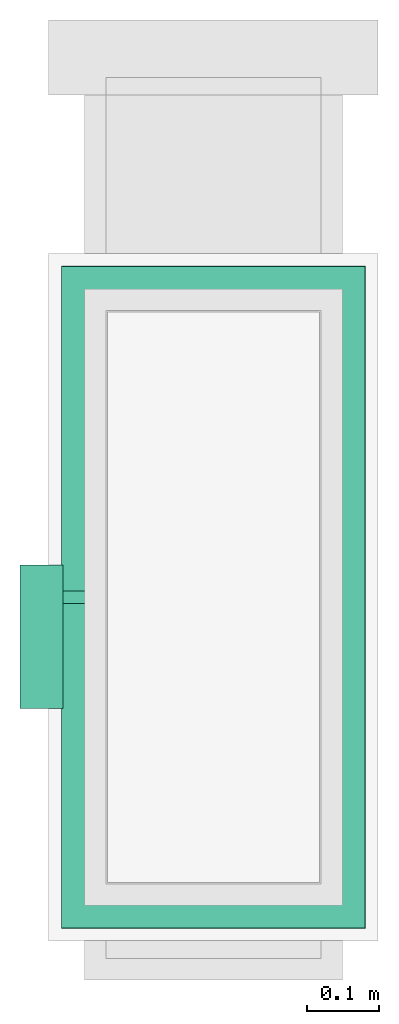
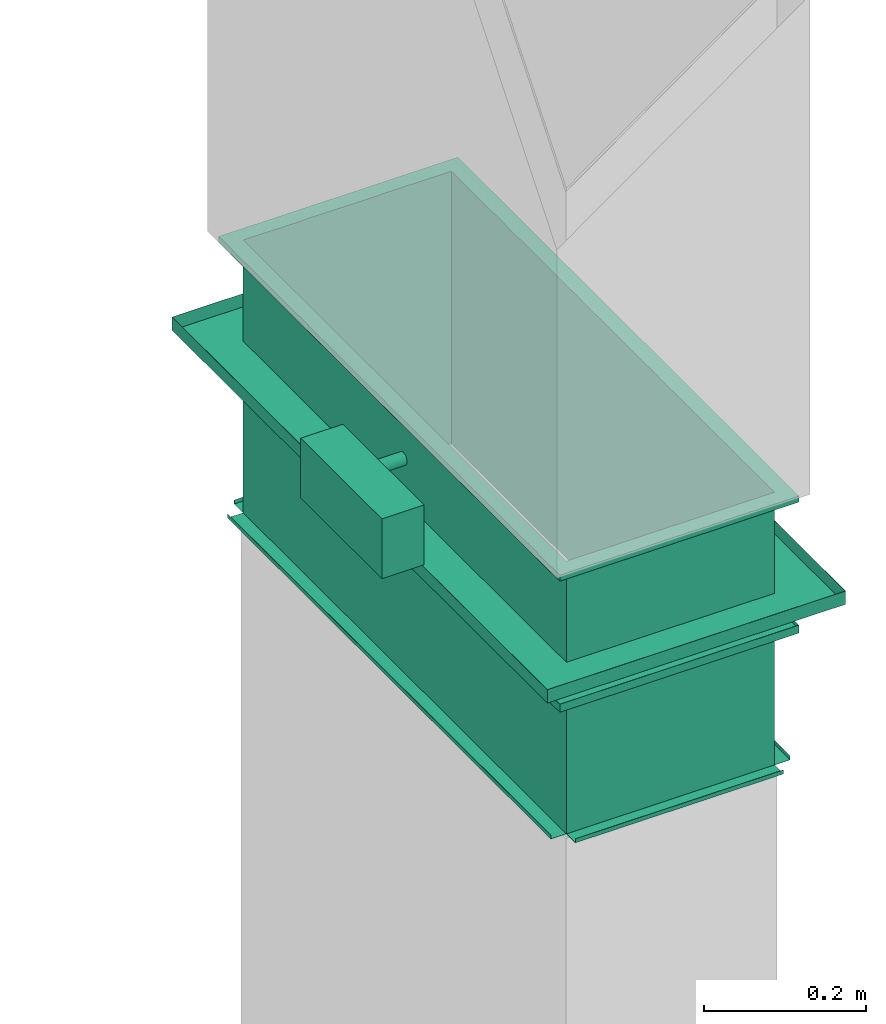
# One storey, part 3 of 4: 1 flow controller.
"""IFC2X3 building model written with IfcOpenShell, lengths in millimetres."""

from ifc_helpers import new_model, entity, si_unit, converted_unit, derived_unit, direction, frame, origin_with_axes, place, context, subcontext, project, spatial, open_shell, surface_model, source, transform, mapped, type_object, element, save


model = new_model("IFC2X3")

# Units and contexts
model_context = context("Model", 3, precision=0.01, world=frame((0.0, 4.29681676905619e-09, 0.0)), true_north=direction((4.01073788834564e-13, 1.0)))
plan_context = context("Plan", 3, precision=0.01, world=frame((0.0, 4.29681676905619e-09, 0.0)), true_north=direction((4.01073788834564e-13, 1.0)))
body_context = subcontext(model_context, "Body", "Model", "MODEL_VIEW")
ifc_project = project(units=[converted_unit("PLANEANGLEUNIT", "DEGREE", entity("IfcPositiveLengthMeasure", 0.0174532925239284), si_unit("PLANEANGLEUNIT", "RADIAN"), dimensions=[0, 0, 0, 0, 0, 0, 0]), si_unit("AREAUNIT", "SQUARE_METRE"), si_unit("LENGTHUNIT", "METRE", prefix="MILLI"), si_unit("MASSUNIT", "GRAM", prefix="KILO"), si_unit("POWERUNIT", "WATT"), si_unit("PRESSUREUNIT", "PASCAL"), si_unit("FORCEUNIT", "NEWTON", prefix="KILO"), si_unit("ELECTRICVOLTAGEUNIT", "VOLT"), si_unit("ELECTRICCURRENTUNIT", "AMPERE"), si_unit("THERMODYNAMICTEMPERATUREUNIT", "DEGREE_CELSIUS"), si_unit("TIMEUNIT", "SECOND"), si_unit("VOLUMEUNIT", "CUBIC_METRE"), derived_unit("LINEARVELOCITYUNIT", [(si_unit("LENGTHUNIT", "METRE"), 1), (si_unit("TIMEUNIT", "SECOND"), -1)]), derived_unit("VOLUMETRICFLOWRATEUNIT", [(si_unit("VOLUMEUNIT", "CUBIC_METRE"), 1), (si_unit("TIMEUNIT", "SECOND"), -1)]), derived_unit("THERMALTRANSMITTANCEUNIT", [(si_unit("POWERUNIT", "WATT"), 1), (si_unit("THERMODYNAMICTEMPERATUREUNIT", "KELVIN"), -1), (si_unit("AREAUNIT", "SQUARE_METRE"), -1)]), derived_unit("SOUNDPRESSUREUNIT", [(si_unit("PRESSUREUNIT", "PASCAL"), 1)])], contexts=[model_context, plan_context])

# Site, building, storey
site_placement = place(None, frame((0.0, -4.29681676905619e-09, 0.0), z_axis=(0.0, 0.0, 1.0), x_axis=(1.0, 0.0, 0.0)))
site = spatial("IfcSite", under=ifc_project, at=site_placement, CompositionType="ELEMENT")
building_placement = place(site_placement, frame((0.0, 4.29681676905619e-09, 0.0), z_axis=(0.0, 0.0, 1.0), x_axis=(1.0, 0.0, 0.0)))
building = spatial("IfcBuilding", under=site, at=building_placement, Name="mc-building", CompositionType="ELEMENT")
storey_placement = place(building_placement, frame((0.0, 0.0, 204000.0), z_axis=(0.0, 0.0, 1.0), x_axis=(1.0, 0.0, 0.0)))
storey = spatial("IfcBuildingStorey", under=building, at=storey_placement, Name="Nivå D", CompositionType="ELEMENT", Elevation=204000.0)

# Flow controller
damper_type = type_object("IfcDamperType", Name="FDT/R-300-800", PredefinedType="FIREDAMPER")
shared_shape = source(origin_with_axes(), body_context, "Body", "SurfaceModel", [
    surface_model("IfcShellBasedSurfaceModel", [(53.1, 212.0, 462.0), (53.1, 148.0, 398.00002), (53.1, 148.0, -398.00002), (53.1, 212.0, -462.0), (52.9, 212.0, -462.0), (52.9, 148.0, -398.00002), (52.9, 212.0, 462.0), (52.9, 148.0, 398.00002), (52.9, -212.0, 462.0), (52.9, -148.0, 398.00002), (52.9, -148.0, -398.00002), (52.9, -212.0, -462.0), (53.1, -212.0, -462.0), (53.1, -148.0, -398.00002), (53.1, -212.0, 462.0), (53.1, -148.0, 398.00002), (-199.0, -148.0, -420.10001), (-205.0, -148.0, -420.10001), (-205.0, 148.0, -420.10001), (-199.0, 148.0, -420.10001), (-199.0, 148.0, -419.89999), (-205.0, 148.0, -419.89999), (-205.0, -148.0, -419.89999), (-199.0, -148.0, -419.89999), (-205.0, -170.09999, -398.00002), (-199.0, -170.09999, -398.00002), (-199.0, -170.09999, 398.00002), (-205.0, -170.09999, 398.00002), (-205.0, -169.9, 398.00002), (-199.0, -169.9, 398.00002), (-199.0, -169.9, -398.00002), (-205.0, -169.9, -398.00002), (-205.0, 169.9, -398.00002), (-199.0, 169.9, -398.00002), (-199.0, 169.9, 398.00002), (-205.0, 169.9, 398.00002), (-205.0, 170.09999, 398.00002), (-199.0, 170.09999, 398.00002), (-199.0, 170.09999, -398.00002), (-205.0, 170.09999, -398.00002), (-199.0, -148.0, 419.89999), (-205.0, -148.0, 419.89999), (-205.0, 148.0, 419.89999), (-199.0, 148.0, 419.89999), (-199.0, 148.0, 420.10001), (-205.0, 148.0, 420.10001), (-205.0, -148.0, 420.10001), (-199.0, -148.0, 420.10001), (4.9, 170.0, -398.00002), (4.9, 148.0, -398.00002), (4.9, 170.0, 398.00002), (4.9, 148.0, 398.00002), (5.1, 170.0, 398.00002), (5.1, 148.0, 398.00002), (5.1, 148.0, -398.00002), (5.1, 170.0, -398.00002), (4.9, -148.0, -398.00002), (4.9, -170.0, -398.00002), (4.9, -148.0, 398.00002), (4.9, -170.0, 398.00002), (5.1, -148.0, 398.00002), (5.1, -170.0, 398.00002), (5.1, -170.0, -398.00002), (5.1, -148.0, -398.00002), (4.9, 170.0, -420.00002), (4.9, -170.0, -420.00002), (5.1, -170.0, -420.00002), (5.1, 170.0, -420.00002), (4.9, 170.0, 420.00002), (4.9, -170.0, 420.00002), (5.1, -170.0, 420.00002), (5.1, 170.0, 420.00002), (-1.0, 169.9, -420.00002), (5.0, 169.9, -420.00002), (5.0, 169.9, 420.00002), (-1.0, 169.9, 420.00002), (-1.0, 170.09999, 420.00002), (5.0, 170.09999, 420.00002), (5.0, 170.09999, -420.00002), (-1.0, 170.09999, -420.00002), (5.0, -170.0, -420.10001), (-1.0, -170.0, -420.10001), (-1.0, 170.0, -420.10001), (5.0, 170.0, -420.10001), (5.0, 170.0, -419.89999), (-1.0, 170.0, -419.89999), (-1.0, -170.0, -419.89999), (5.0, -170.0, -419.89999), (-1.0, -170.09999, -420.00002), (5.0, -170.09999, -420.00002), (5.0, -170.09999, 420.00002), (-1.0, -170.09999, 420.00002), (-1.0, -169.9, 420.00002), (5.0, -169.9, 420.00002), (5.0, -169.9, -420.00002), (-1.0, -169.9, -420.00002), (5.0, -170.0, 419.89999), (-1.0, -170.0, 419.89999), (-1.0, 170.0, 419.89999), (5.0, 170.0, 419.89999), (5.0, 170.0, 420.10001), (-1.0, 170.0, 420.10001), (-1.0, -170.0, 420.10001), (5.0, -170.0, 420.10001), (5.0, -148.0, -398.10001), (-205.0, -148.0, -398.10001), (-205.0, 148.0, -398.10001), (5.0, 148.0, -398.10001), (5.0, 148.0, -397.89999), (-205.0, 148.0, -397.89999), (5.0, -148.0, -397.89999), (-205.0, -148.0, -397.89999), (5.0, -148.0, 397.89999), (-205.0, -148.0, 397.89999), (-205.0, 148.0, 397.89999), (5.0, 148.0, 397.89999), (5.0, 148.0, 398.10001), (-205.0, 148.0, 398.10001), (5.0, -148.0, 398.10001), (-205.0, -148.0, 398.10001), (-205.0, -148.1, -398.00002), (5.0, -148.1, -398.00002), (5.0, -148.1, 398.00002), (-205.0, -148.1, 398.00002), (-205.0, -147.9, 398.00002), (5.0, -147.9, 398.00002), (-205.0, -147.9, -398.00002), (5.0, -147.9, -398.00002), (-205.0, 147.9, -398.00002), (5.0, 147.9, -398.00002), (5.0, 147.9, 398.00002), (-205.0, 147.9, 398.00002), (-205.0, 148.1, 398.00002), (5.0, 148.1, 398.00002), (-205.0, 148.1, -398.00002), (5.0, 148.1, -398.00002), (-205.1, 148.0, 420.00002), (-205.1, 148.0, 398.00002), (-205.1, -148.0, 398.00002), (-205.1, -148.0, 420.00002), (-204.89999, -148.0, 420.00002), (-204.89999, -148.0, 398.00002), (-204.89999, 148.0, 420.00002), (-204.89999, 148.0, 398.00002), (-205.1, 170.0, -398.00002), (-205.1, 148.0, -398.00002), (-205.1, 170.0, 398.00002), (-204.89999, 170.0, 398.00002), (-204.89999, 148.0, -398.00002), (-204.89999, 170.0, -398.00002), (-205.1, 148.0, -420.00002), (-205.1, -148.0, -420.00002), (-205.1, -148.0, -398.00002), (-204.89999, -148.0, -398.00002), (-204.89999, -148.0, -420.00002), (-204.89999, 148.0, -420.00002), (-205.1, -170.0, -398.00002), (-205.1, -170.0, 398.00002), (-204.89999, -170.0, 398.00002), (-204.89999, -170.0, -398.00002), (73.0, -212.0, -462.09999), (53.0, -212.0, -462.09999), (53.0, 212.0, -462.09999), (73.0, 212.0, -462.09999), (73.0, 212.0, -461.9), (53.0, 212.0, -461.9), (73.0, -212.0, -461.9), (53.0, -212.0, -461.9), (53.0, -212.10001, -462.0), (73.0, -212.10001, -462.0), (53.0, -212.10001, 462.0), (73.0, -212.10001, 462.0), (53.0, -211.9, 462.0), (73.0, -211.9, 462.0), (53.0, -211.9, -462.0), (73.0, -211.9, -462.0), (53.0, 211.9, -462.0), (73.0, 211.9, -462.0), (53.0, 211.9, 462.0), (73.0, 211.9, 462.0), (53.0, 212.10001, 462.0), (73.0, 212.10001, 462.0), (53.0, 212.10001, -462.0), (73.0, 212.10001, -462.0), (73.0, -212.0, 461.9), (53.0, -212.0, 461.9), (53.0, 212.0, 461.9), (73.0, 212.0, 461.9), (73.0, 212.0, 462.09999), (53.0, 212.0, 462.09999), (73.0, -212.0, 462.09999), (53.0, -212.0, 462.09999), (205.0, 147.9, -398.00002), (205.0, 147.9, 398.00002), (205.0, 148.1, 398.00002), (205.0, 148.1, -398.00002), (205.0, -148.1, -398.00002), (205.0, -148.1, 398.00002), (205.0, -147.9, 398.00002), (205.0, -147.9, -398.00002), (205.0, -148.0, 397.89999), (205.0, 148.0, 397.89999), (205.0, 148.0, 398.10001), (205.0, -148.0, 398.10001), (205.0, -148.0, -398.10001), (205.0, 148.0, -398.10001), (205.0, 148.0, -397.89999), (205.0, -148.0, -397.89999), (205.0, -170.0, 419.89999), (195.99999, -170.0, 419.89999), (195.99999, 170.0, 419.89999), (205.0, 170.0, 419.89999), (205.0, 170.0, 420.10001), (195.99999, 170.0, 420.10001), (195.99999, -170.0, 420.10001), (205.0, -170.0, 420.10001), (195.99999, -170.09999, -420.00002), (205.0, -170.09999, -420.00002), (195.99999, -170.09999, 420.00002), (205.0, -170.09999, 420.00002), (195.99999, -169.9, 420.00002), (205.0, -169.9, 420.00002), (195.99999, -169.9, -420.00002), (205.0, -169.9, -420.00002), (205.0, -170.0, -420.10001), (195.99999, -170.0, -420.10001), (195.99999, 170.0, -420.10001), (205.0, 170.0, -420.10001), (205.0, 170.0, -419.89999), (195.99999, 170.0, -419.89999), (195.99999, -170.0, -419.89999), (205.0, -170.0, -419.89999), (195.99999, 169.9, -420.00002), (205.0, 169.9, -420.00002), (195.99999, 169.9, 420.00002), (205.0, 169.9, 420.00002), (195.99999, 170.09999, 420.00002), (205.0, 170.09999, 420.00002), (195.99999, 170.09999, -420.00002), (205.0, 170.09999, -420.00002), (204.89999, 170.0, 420.00002), (204.89999, 170.0, 398.00002), (204.89999, -170.0, 398.00002), (204.89999, -170.0, 420.00002), (205.1, -170.0, 420.00002), (205.1, -170.0, 398.00002), (205.1, 170.0, 420.00002), (205.1, 170.0, 398.00002), (204.89999, 170.0, -398.00002), (204.89999, 170.0, -420.00002), (204.89999, -170.0, -420.00002), (204.89999, -170.0, -398.00002), (205.1, -170.0, -398.00002), (205.1, -170.0, -420.00002), (205.1, 170.0, -398.00002), (205.1, 170.0, -420.00002), (204.89999, -148.0, -398.00002), (204.89999, -148.0, 398.00002), (205.1, -148.0, 398.00002), (205.1, -148.0, -398.00002), (204.89999, 148.0, -398.00002), (204.89999, 148.0, 398.00002), (205.1, 148.0, 398.00002), (205.1, 148.0, -398.00002), (11.0, -170.0, 419.89999), (11.0, 170.0, 419.89999), (11.0, 170.0, 420.10001), (11.0, -170.0, 420.10001), (11.0, 169.9, -420.00002), (11.0, 169.9, 420.00002), (11.0, 170.09999, 420.00002), (11.0, 170.09999, -420.00002), (11.0, -170.09999, -420.00002), (11.0, -170.09999, 420.00002), (11.0, -169.9, 420.00002), (11.0, -169.9, -420.00002), (11.0, -170.0, -420.10001), (11.0, 170.0, -420.10001), (11.0, 170.0, -419.89999), (11.0, -170.0, -419.89999), (74.0, -270.0, 45.0), (164.0, -270.0, 45.0), (164.0, -210.0, 45.0), (74.0, -210.0, 45.0), (74.0, -210.0, -155.0), (164.0, -210.0, -155.0), (164.0, -270.0, -155.0), (74.0, -270.0, -155.0), (111.20578, -150.0, 4.5), (112.63604, -150.0, 6.36396), (111.37898, -150.0, 4.4), (110.49985, -150.0, 2.27761), (110.2, -150.0, 0.0), (110.30667, -150.0, 2.32937), (110.0, -150.0, 0.0), (112.77746, -150.0, 6.22254), (116.67063, -150.0, 8.69333), (119.0, -150.0, 8.8), (116.72239, -150.0, 8.50015), (119.0, -150.0, 9.0), (114.5, -150.0, 7.79423), (114.6, -150.0, 7.62102), (110.49985, -150.0, -2.27761), (110.30667, -150.0, -2.32937), (111.37898, -150.0, -4.4), (112.63604, -150.0, -6.36396), (111.20578, -150.0, -4.5), (112.77746, -150.0, -6.22254), (114.6, -150.0, -7.62102), (114.5, -150.0, -7.79423), (116.72239, -150.0, -8.50015), (116.67063, -150.0, -8.69333), (119.0, -150.0, -8.8), (119.0, -150.0, -9.0), (121.32937, -150.0, 8.69333), (121.27761, -150.0, 8.50015), (123.4, -150.0, 7.62102), (123.5, -150.0, 7.79423), (125.22254, -150.0, 6.22254), (125.36396, -150.0, 6.36396), (126.79423, -150.0, 4.5), (126.62102, -150.0, 4.4), (127.50015, -150.0, 2.27761), (127.69333, -150.0, 2.32937), (127.8, -150.0, 0.0), (128.0, -150.0, 0.0), (123.5, -150.0, -7.79423), (123.4, -150.0, -7.62102), (125.36396, -150.0, -6.36396), (125.22254, -150.0, -6.22254), (121.32937, -150.0, -8.69333), (121.27761, -150.0, -8.50015), (127.50015, -150.0, -2.27761), (127.69333, -150.0, -2.32937), (126.62102, -150.0, -4.4), (126.79423, -150.0, -4.5), (126.79423, -210.0, 4.5), (125.36396, -210.0, 6.36396), (126.62102, -210.0, 4.4), (127.50015, -210.0, 2.27761), (127.8, -210.0, 0.0), (127.69333, -210.0, 2.32937), (128.0, -210.0, 0.0), (125.22254, -210.0, 6.22254), (121.32937, -210.0, 8.69333), (119.0, -210.0, 8.8), (121.27761, -210.0, 8.50015), (119.0, -210.0, 9.0), (123.5, -210.0, 7.79423), (123.4, -210.0, 7.62102), (127.50015, -210.0, -2.27761), (127.69333, -210.0, -2.32937), (126.62102, -210.0, -4.4), (125.36396, -210.0, -6.36396), (126.79423, -210.0, -4.5), (125.22254, -210.0, -6.22254), (123.4, -210.0, -7.62102), (123.5, -210.0, -7.79423), (121.27761, -210.0, -8.50015), (121.32937, -210.0, -8.69333), (119.0, -210.0, -8.8), (119.0, -210.0, -9.0), (116.67063, -210.0, 8.69333), (116.72239, -210.0, 8.50015), (114.6, -210.0, 7.62102), (114.5, -210.0, 7.79423), (112.77746, -210.0, 6.22254), (112.63604, -210.0, 6.36396), (111.20578, -210.0, 4.5), (111.37898, -210.0, 4.4), (110.49985, -210.0, 2.27761), (110.30667, -210.0, 2.32937), (110.2, -210.0, 0.0), (110.0, -210.0, 0.0), (114.5, -210.0, -7.79423), (114.6, -210.0, -7.62102), (112.63604, -210.0, -6.36396), (112.77746, -210.0, -6.22254), (116.67063, -210.0, -8.69333), (116.72239, -210.0, -8.50015), (110.49985, -210.0, -2.27761), (110.30667, -210.0, -2.32937), (111.37898, -210.0, -4.4), (111.20578, -210.0, -4.5)], [open_shell([[[0, 1, 2]], [[2, 3, 0]], [[4, 5, 6]], [[7, 6, 5]], [[1, 0, 6]], [[6, 7, 1]], [[2, 1, 7]], [[7, 5, 2]], [[3, 2, 5]], [[5, 4, 3]], [[0, 3, 4]], [[4, 6, 0]], [[8, 9, 10]], [[10, 11, 8]], [[12, 13, 14]], [[15, 14, 13]], [[10, 9, 15]], [[15, 13, 10]], [[11, 10, 13]], [[13, 12, 11]], [[8, 11, 12]], [[12, 14, 8]], [[9, 8, 15]], [[14, 15, 8]], [[3, 2, 12]], [[13, 12, 2]], [[11, 10, 5]], [[5, 4, 11]], [[12, 13, 10]], [[10, 11, 12]], [[3, 12, 11]], [[11, 4, 3]], [[2, 3, 4]], [[4, 5, 2]], [[13, 2, 10]], [[5, 10, 2]], [[14, 15, 0]], [[1, 0, 15]], [[6, 7, 9]], [[9, 8, 6]], [[0, 1, 6]], [[7, 6, 1]], [[14, 0, 6]], [[6, 8, 14]], [[15, 14, 8]], [[8, 9, 15]], [[1, 15, 7]], [[9, 7, 15]], [[16, 17, 18]], [[18, 19, 16]], [[20, 21, 22]], [[22, 23, 20]], [[18, 17, 22]], [[22, 21, 18]], [[19, 18, 21]], [[21, 20, 19]], [[16, 19, 20]], [[20, 23, 16]], [[17, 16, 23]], [[23, 22, 17]], [[24, 25, 26]], [[26, 27, 24]], [[28, 29, 30]], [[30, 31, 28]], [[26, 25, 30]], [[30, 29, 26]], [[27, 26, 29]], [[29, 28, 27]], [[24, 27, 28]], [[28, 31, 24]], [[25, 24, 31]], [[31, 30, 25]], [[32, 33, 34]], [[34, 35, 32]], [[36, 37, 38]], [[38, 39, 36]], [[34, 33, 38]], [[38, 37, 34]], [[35, 34, 37]], [[37, 36, 35]], [[32, 35, 36]], [[36, 39, 32]], [[33, 32, 39]], [[39, 38, 33]], [[40, 41, 42]], [[42, 43, 40]], [[44, 45, 46]], [[46, 47, 44]], [[42, 41, 46]], [[46, 45, 42]], [[43, 42, 45]], [[45, 44, 43]], [[40, 43, 44]], [[44, 47, 40]], [[41, 40, 47]], [[47, 46, 41]], [[48, 49, 50]], [[51, 50, 49]], [[52, 53, 54]], [[54, 55, 52]], [[51, 49, 54]], [[54, 53, 51]], [[50, 51, 53]], [[53, 52, 50]], [[48, 50, 52]], [[52, 55, 48]], [[49, 48, 55]], [[55, 54, 49]], [[56, 57, 58]], [[59, 58, 57]], [[60, 61, 62]], [[62, 63, 60]], [[59, 57, 62]], [[62, 61, 59]], [[58, 59, 61]], [[61, 60, 58]], [[56, 58, 60]], [[60, 63, 56]], [[57, 56, 63]], [[63, 62, 57]], [[48, 64, 65]], [[65, 57, 48]], [[62, 66, 55]], [[67, 55, 66]], [[65, 64, 67]], [[67, 66, 65]], [[57, 65, 66]], [[66, 62, 57]], [[48, 57, 62]], [[62, 55, 48]], [[64, 48, 55]], [[55, 67, 64]], [[68, 50, 59]], [[59, 69, 68]], [[70, 61, 71]], [[52, 71, 61]], [[59, 50, 52]], [[52, 61, 59]], [[69, 59, 61]], [[61, 70, 69]], [[68, 69, 70]], [[70, 71, 68]], [[50, 68, 71]], [[71, 52, 50]], [[72, 73, 74]], [[74, 75, 72]], [[76, 77, 78]], [[78, 79, 76]], [[74, 73, 78]], [[78, 77, 74]], [[75, 74, 77]], [[77, 76, 75]], [[72, 75, 76]], [[76, 79, 72]], [[73, 72, 79]], [[79, 78, 73]], [[80, 81, 82]], [[82, 83, 80]], [[84, 85, 86]], [[86, 87, 84]], [[82, 81, 86]], [[86, 85, 82]], [[83, 82, 85]], [[85, 84, 83]], [[80, 83, 84]], [[84, 87, 80]], [[81, 80, 87]], [[87, 86, 81]], [[88, 89, 90]], [[90, 91, 88]], [[92, 93, 94]], [[94, 95, 92]], [[90, 89, 94]], [[94, 93, 90]], [[91, 90, 93]], [[93, 92, 91]], [[88, 91, 92]], [[92, 95, 88]], [[89, 88, 95]], [[95, 94, 89]], [[96, 97, 98]], [[98, 99, 96]], [[100, 101, 102]], [[102, 103, 100]], [[98, 97, 102]], [[102, 101, 98]], [[99, 98, 101]], [[101, 100, 99]], [[96, 99, 100]], [[100, 103, 96]], [[97, 96, 103]], [[103, 102, 97]], [[104, 105, 106]], [[106, 107, 104]], [[108, 109, 110]], [[111, 110, 109]], [[106, 105, 111]], [[111, 109, 106]], [[107, 106, 109]], [[109, 108, 107]], [[104, 107, 108]], [[108, 110, 104]], [[105, 104, 110]], [[110, 111, 105]], [[112, 113, 114]], [[114, 115, 112]], [[116, 117, 118]], [[119, 118, 117]], [[114, 113, 119]], [[119, 117, 114]], [[115, 114, 117]], [[117, 116, 115]], [[112, 115, 116]], [[116, 118, 112]], [[113, 112, 118]], [[118, 119, 113]], [[120, 121, 122]], [[122, 123, 120]], [[124, 125, 126]], [[127, 126, 125]], [[122, 121, 127]], [[127, 125, 122]], [[123, 122, 125]], [[125, 124, 123]], [[120, 123, 124]], [[124, 126, 120]], [[121, 120, 126]], [[126, 127, 121]], [[128, 129, 130]], [[130, 131, 128]], [[132, 133, 134]], [[135, 134, 133]], [[130, 129, 135]], [[135, 133, 130]], [[131, 130, 133]], [[133, 132, 131]], [[128, 131, 132]], [[132, 134, 128]], [[129, 128, 134]], [[134, 135, 129]], [[136, 137, 138]], [[138, 139, 136]], [[140, 141, 142]], [[143, 142, 141]], [[138, 137, 141]], [[143, 141, 137]], [[139, 138, 141]], [[141, 140, 139]], [[136, 139, 140]], [[140, 142, 136]], [[137, 136, 142]], [[142, 143, 137]], [[144, 145, 137]], [[137, 146, 144]], [[147, 143, 148]], [[148, 149, 147]], [[137, 145, 148]], [[148, 143, 137]], [[146, 137, 147]], [[143, 147, 137]], [[144, 146, 147]], [[147, 149, 144]], [[145, 144, 148]], [[149, 148, 144]], [[145, 150, 151]], [[151, 152, 145]], [[153, 154, 148]], [[155, 148, 154]], [[151, 150, 154]], [[155, 154, 150]], [[152, 151, 153]], [[154, 153, 151]], [[145, 152, 148]], [[153, 148, 152]], [[150, 145, 148]], [[148, 155, 150]], [[152, 156, 157]], [[157, 138, 152]], [[141, 158, 159]], [[159, 153, 141]], [[157, 156, 159]], [[159, 158, 157]], [[138, 157, 158]], [[158, 141, 138]], [[152, 138, 141]], [[141, 153, 152]], [[156, 152, 159]], [[153, 159, 152]], [[160, 161, 162]], [[162, 163, 160]], [[164, 165, 166]], [[167, 166, 165]], [[162, 161, 167]], [[167, 165, 162]], [[163, 162, 165]], [[165, 164, 163]], [[160, 163, 164]], [[164, 166, 160]], [[161, 160, 166]], [[166, 167, 161]], [[168, 169, 170]], [[171, 170, 169]], [[172, 173, 174]], [[175, 174, 173]], [[171, 169, 175]], [[175, 173, 171]], [[170, 171, 173]], [[173, 172, 170]], [[168, 170, 172]], [[172, 174, 168]], [[169, 168, 174]], [[174, 175, 169]], [[176, 177, 178]], [[179, 178, 177]], [[180, 181, 182]], [[183, 182, 181]], [[179, 177, 183]], [[183, 181, 179]], [[178, 179, 181]], [[181, 180, 178]], [[176, 178, 180]], [[180, 182, 176]], [[177, 176, 182]], [[182, 183, 177]], [[184, 185, 186]], [[186, 187, 184]], [[188, 189, 190]], [[191, 190, 189]], [[186, 185, 191]], [[191, 189, 186]], [[187, 186, 189]], [[189, 188, 187]], [[184, 187, 188]], [[188, 190, 184]], [[185, 184, 190]], [[190, 191, 185]], [[48, 49, 51]], [[51, 50, 48]], [[129, 192, 193]], [[193, 130, 129]], [[133, 194, 135]], [[195, 135, 194]], [[193, 192, 195]], [[195, 194, 193]], [[130, 193, 194]], [[194, 133, 130]], [[129, 130, 133]], [[133, 135, 129]], [[192, 129, 135]], [[135, 195, 192]], [[121, 196, 197]], [[197, 122, 121]], [[125, 198, 127]], [[199, 127, 198]], [[197, 196, 199]], [[199, 198, 197]], [[122, 197, 198]], [[198, 125, 122]], [[121, 122, 125]], [[125, 127, 121]], [[196, 121, 127]], [[127, 199, 196]], [[200, 112, 115]], [[115, 201, 200]], [[202, 116, 203]], [[118, 203, 116]], [[115, 112, 118]], [[118, 116, 115]], [[201, 115, 116]], [[116, 202, 201]], [[200, 201, 202]], [[202, 203, 200]], [[112, 200, 203]], [[203, 118, 112]], [[204, 104, 107]], [[107, 205, 204]], [[206, 108, 207]], [[110, 207, 108]], [[107, 104, 110]], [[110, 108, 107]], [[205, 107, 108]], [[108, 206, 205]], [[204, 205, 206]], [[206, 207, 204]], [[104, 204, 207]], [[207, 110, 104]], [[208, 209, 210]], [[210, 211, 208]], [[212, 213, 214]], [[214, 215, 212]], [[210, 209, 214]], [[214, 213, 210]], [[211, 210, 213]], [[213, 212, 211]], [[208, 211, 212]], [[212, 215, 208]], [[209, 208, 215]], [[215, 214, 209]], [[216, 217, 218]], [[219, 218, 217]], [[220, 221, 222]], [[223, 222, 221]], [[219, 217, 223]], [[223, 221, 219]], [[218, 219, 221]], [[221, 220, 218]], [[216, 218, 220]], [[220, 222, 216]], [[217, 216, 222]], [[222, 223, 217]], [[224, 225, 226]], [[226, 227, 224]], [[228, 229, 230]], [[230, 231, 228]], [[226, 225, 230]], [[230, 229, 226]], [[227, 226, 229]], [[229, 228, 227]], [[224, 227, 228]], [[228, 231, 224]], [[225, 224, 231]], [[231, 230, 225]], [[232, 233, 234]], [[235, 234, 233]], [[236, 237, 238]], [[239, 238, 237]], [[235, 233, 239]], [[239, 237, 235]], [[234, 235, 237]], [[237, 236, 234]], [[232, 234, 236]], [[236, 238, 232]], [[233, 232, 238]], [[238, 239, 233]], [[240, 241, 242]], [[242, 243, 240]], [[244, 245, 246]], [[247, 246, 245]], [[242, 241, 247]], [[247, 245, 242]], [[243, 242, 244]], [[245, 244, 242]], [[240, 243, 244]], [[244, 246, 240]], [[241, 240, 247]], [[246, 247, 240]], [[248, 249, 250]], [[250, 251, 248]], [[252, 253, 254]], [[255, 254, 253]], [[250, 249, 255]], [[255, 253, 250]], [[251, 250, 252]], [[253, 252, 250]], [[248, 251, 252]], [[252, 254, 248]], [[249, 248, 255]], [[254, 255, 248]], [[256, 251, 257]], [[242, 257, 251]], [[258, 245, 252]], [[252, 259, 258]], [[242, 251, 252]], [[252, 245, 242]], [[257, 242, 245]], [[245, 258, 257]], [[256, 257, 258]], [[258, 259, 256]], [[251, 256, 252]], [[259, 252, 256]], [[248, 260, 241]], [[261, 241, 260]], [[247, 262, 263]], [[263, 254, 247]], [[261, 260, 263]], [[263, 262, 261]], [[241, 261, 247]], [[262, 247, 261]], [[248, 241, 247]], [[247, 254, 248]], [[260, 248, 263]], [[254, 263, 248]], [[264, 96, 99]], [[99, 265, 264]], [[266, 100, 103]], [[103, 267, 266]], [[99, 96, 103]], [[103, 100, 99]], [[265, 99, 100]], [[100, 266, 265]], [[264, 265, 266]], [[266, 267, 264]], [[96, 264, 267]], [[267, 103, 96]], [[73, 268, 269]], [[269, 74, 73]], [[77, 270, 271]], [[271, 78, 77]], [[269, 268, 271]], [[271, 270, 269]], [[74, 269, 270]], [[270, 77, 74]], [[73, 74, 77]], [[77, 78, 73]], [[268, 73, 78]], [[78, 271, 268]], [[89, 272, 273]], [[273, 90, 89]], [[93, 274, 275]], [[275, 94, 93]], [[273, 272, 275]], [[275, 274, 273]], [[90, 273, 274]], [[274, 93, 90]], [[89, 90, 93]], [[93, 94, 89]], [[272, 89, 94]], [[94, 275, 272]], [[276, 80, 83]], [[83, 277, 276]], [[278, 84, 87]], [[87, 279, 278]], [[83, 80, 87]], [[87, 84, 83]], [[277, 83, 84]], [[84, 278, 277]], [[276, 277, 278]], [[278, 279, 276]], [[80, 276, 279]], [[279, 87, 80]], [[280, 281, 282]], [[282, 283, 280]], [[284, 285, 286]], [[286, 287, 284]], [[282, 281, 286]], [[286, 285, 282]], [[283, 282, 285]], [[285, 284, 283]], [[280, 283, 284]], [[284, 287, 280]], [[281, 280, 287]], [[287, 286, 281]], [[288, 289, 290]], [[288, 290, 291]], [[292, 293, 291]], [[293, 292, 294]], [[291, 293, 288]], [[290, 289, 295]], [[296, 297, 298]], [[297, 296, 299]], [[296, 298, 300]], [[295, 300, 301]], [[300, 295, 289]], [[301, 300, 298]], [[294, 302, 303]], [[303, 302, 304]], [[305, 306, 307]], [[304, 306, 303]], [[304, 307, 306]], [[294, 292, 302]], [[308, 309, 305]], [[309, 308, 310]], [[308, 305, 307]], [[311, 310, 312]], [[310, 311, 309]], [[311, 312, 313]], [[299, 314, 315]], [[315, 314, 316]], [[316, 317, 318]], [[317, 316, 314]], [[318, 317, 319]], [[319, 320, 321]], [[321, 320, 322]], [[322, 323, 324]], [[323, 322, 320]], [[324, 323, 325]], [[321, 318, 319]], [[326, 327, 328]], [[328, 327, 329]], [[327, 326, 330]], [[313, 331, 330]], [[330, 331, 327]], [[313, 312, 331]], [[332, 325, 333]], [[332, 333, 334]], [[329, 335, 328]], [[329, 334, 335]], [[335, 334, 333]], [[324, 325, 332]], [[315, 297, 299]], [[336, 337, 338]], [[336, 338, 339]], [[340, 341, 339]], [[341, 340, 342]], [[339, 341, 336]], [[338, 337, 343]], [[344, 345, 346]], [[345, 344, 347]], [[344, 346, 348]], [[343, 348, 349]], [[348, 343, 337]], [[349, 348, 346]], [[342, 350, 351]], [[351, 350, 352]], [[353, 354, 355]], [[352, 354, 351]], [[352, 355, 354]], [[342, 340, 350]], [[356, 357, 353]], [[357, 356, 358]], [[356, 353, 355]], [[359, 358, 360]], [[358, 359, 357]], [[359, 360, 361]], [[347, 362, 363]], [[363, 362, 364]], [[364, 365, 366]], [[365, 364, 362]], [[366, 365, 367]], [[367, 368, 369]], [[369, 368, 370]], [[370, 371, 372]], [[371, 370, 368]], [[372, 371, 373]], [[369, 366, 367]], [[374, 375, 376]], [[376, 375, 377]], [[375, 374, 378]], [[361, 379, 378]], [[378, 379, 375]], [[361, 360, 379]], [[380, 373, 381]], [[380, 381, 382]], [[377, 383, 376]], [[377, 382, 383]], [[383, 382, 381]], [[372, 373, 380]], [[363, 345, 347]], [[378, 311, 361]], [[374, 309, 378]], [[306, 376, 383]], [[374, 376, 305]], [[303, 383, 381]], [[378, 309, 311]], [[311, 313, 361]], [[303, 306, 383]], [[305, 376, 306]], [[305, 309, 374]], [[294, 303, 381]], [[381, 373, 294]], [[371, 293, 373]], [[368, 288, 371]], [[300, 367, 365]], [[368, 367, 289]], [[296, 365, 362]], [[368, 289, 288]], [[288, 293, 371]], [[299, 296, 362]], [[300, 365, 296]], [[300, 289, 367]], [[347, 299, 362]], [[373, 293, 294]], [[344, 314, 347]], [[348, 317, 344]], [[320, 337, 336]], [[348, 337, 319]], [[323, 336, 341]], [[344, 317, 314]], [[314, 299, 347]], [[320, 319, 337]], [[317, 348, 319]], [[323, 320, 336]], [[341, 325, 323]], [[341, 342, 325]], [[351, 333, 342]], [[354, 335, 351]], [[326, 353, 357]], [[354, 353, 328]], [[330, 357, 359]], [[354, 328, 335]], [[335, 333, 351]], [[313, 330, 359]], [[326, 357, 330]], [[326, 328, 353]], [[361, 313, 359]], [[342, 333, 325]], [[360, 310, 379]], [[379, 308, 375]], [[382, 377, 304]], [[307, 377, 375]], [[380, 382, 302]], [[310, 308, 379]], [[360, 312, 310]], [[382, 304, 302]], [[304, 377, 307]], [[375, 308, 307]], [[380, 302, 292]], [[292, 372, 380]], [[372, 291, 370]], [[370, 290, 369]], [[364, 366, 301]], [[295, 366, 369]], [[363, 364, 298]], [[290, 295, 369]], [[370, 291, 290]], [[363, 298, 297]], [[298, 364, 301]], [[366, 295, 301]], [[363, 297, 345]], [[292, 291, 372]], [[345, 315, 346]], [[346, 316, 349]], [[338, 343, 321]], [[318, 343, 349]], [[339, 338, 322]], [[297, 315, 345]], [[315, 316, 346]], [[322, 338, 321]], [[316, 318, 349]], [[318, 321, 343]], [[322, 324, 339]], [[324, 340, 339]], [[350, 340, 332]], [[352, 350, 332]], [[358, 356, 327]], [[360, 358, 331]], [[332, 334, 352]], [[355, 352, 334]], [[329, 355, 334]], [[355, 329, 327]], [[331, 358, 327]], [[327, 356, 355]], [[331, 312, 360]], [[324, 332, 340]]])]),
])
flow_controller_placement = place(storey_placement, frame((524180.93348, 456533.17026, 6939.65599), z_axis=(0.0, 1.0, 0.0), x_axis=(0.0, 0.0, 1.0)))
element("IfcFlowController", 1, at=flow_controller_placement, inside=storey, type_object=damper_type, Name="FDT/R-300-800", context=body_context, shape_type="MappedRepresentation", body=[
    mapped(shared_shape, transform((0.0, 0.0, 0.0), scale=1.0)),
])

save(model, "model.ifc")
